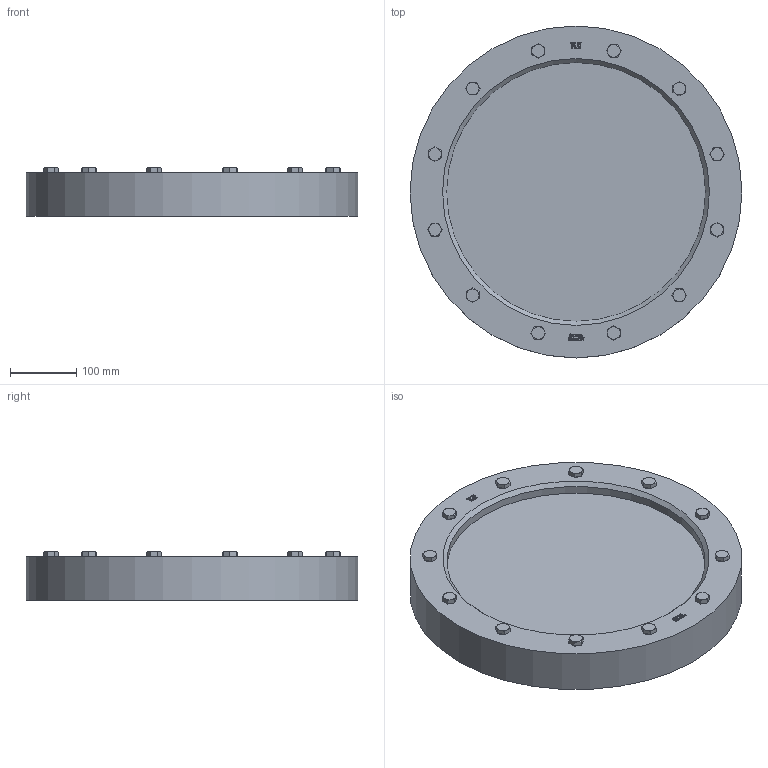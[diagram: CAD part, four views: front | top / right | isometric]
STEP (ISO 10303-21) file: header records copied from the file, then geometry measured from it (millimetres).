
FILE_DESCRIPTION(/* description */ (''),/* implementation_level */ '2;1');
FILE_NAME(/* name */ 'W:\Konstruktion_ACI\318\_STEP\ACI-318-400.stp',/* time_stamp */ '2022-03-02T18:04:18+01:00',/* author */ ('Travnicek'),/* organization */ (''),/* preprocessor_version */ 'ST-DEVELOPER v16.1',/* originating_system */ 'Autodesk Inventor 2016',/* authorisation */ '');
FILE_SCHEMA (('AUTOMOTIVE_DESIGN { 1 0 10303 214 3 1 1 }'));
Length unit declared in the file: centimetre
Products named in the file (1): ACI-318-400.stp
Bounding box: 500 x 500 x 73.5 mm (x, y, z)
Volume: 8493880.7 mm3; surface area: 538722.7 mm2
Topology: 1 solids, 1 shells, 584 faces, 1484 edges, 965 vertices
Faces by surface type: plane 327, bspline 168, cone 74, cylinder 15
Full cylindrical faces by diameter (mm): 17.2 x12, 390 x2, 500 x1
Entity records: 18625 total; most frequent: CARTESIAN_POINT 5487, ORIENTED_EDGE 2932, DIRECTION 1924, EDGE_CURVE 1466, VERTEX_POINT 964, LINE 882, VECTOR 882, EDGE_LOOP 664
